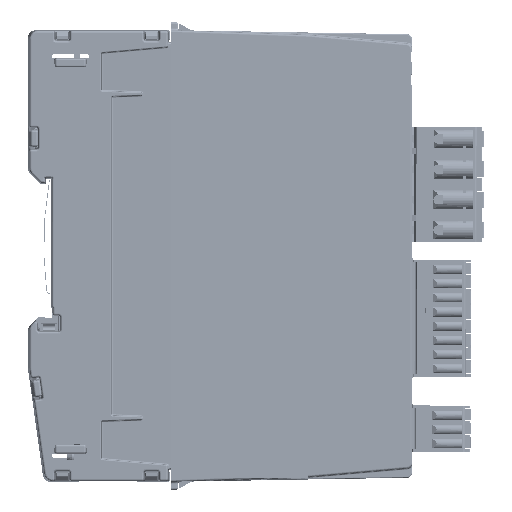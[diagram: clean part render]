
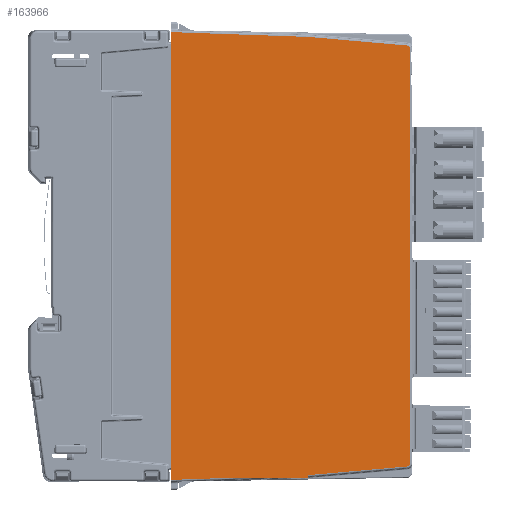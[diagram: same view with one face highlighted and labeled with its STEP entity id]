
A CAD part, left-side view. The second image highlights one B-rep face of the part: STEP entity #163966.
In plain terms, the highlighted planar face has unit normal (-1, -0.018, 0).
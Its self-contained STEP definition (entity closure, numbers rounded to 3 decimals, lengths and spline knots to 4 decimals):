
#15742=FACE_OUTER_BOUND('',#24830,.T.);
#24830=EDGE_LOOP('',(#138290,#138291,#138292,#138293,#138294,#138295,#138296,
#138297,#138298,#138299,#138300,#138301,#138302));
#40829=LINE('',#279380,#57336);
#40842=LINE('',#279452,#57349);
#40899=LINE('',#279680,#57406);
#41229=LINE('',#281508,#57736);
#41230=LINE('',#281510,#57737);
#41231=LINE('',#281514,#57738);
#41232=LINE('',#281518,#57739);
#41233=LINE('',#281520,#57740);
#41234=LINE('',#281522,#57741);
#41235=LINE('',#281524,#57742);
#41236=LINE('',#281525,#57743);
#57336=VECTOR('',#215717,0.3937);
#57349=VECTOR('',#215758,0.3937);
#57406=VECTOR('',#215953,39.3701);
#57736=VECTOR('',#216677,39.3701);
#57737=VECTOR('',#216678,39.3701);
#57738=VECTOR('',#216681,39.3701);
#57739=VECTOR('',#216684,39.3701);
#57740=VECTOR('',#216685,39.3701);
#57741=VECTOR('',#216686,39.3701);
#57742=VECTOR('',#216687,39.3701);
#57743=VECTOR('',#216688,39.3701);
#60091=ELLIPSE('',#176515,0.0315,0.0315);
#60092=ELLIPSE('',#176516,0.0315,0.0315);
#73237=VERTEX_POINT('',#279376);
#73239=VERTEX_POINT('',#279379);
#73261=VERTEX_POINT('',#279447);
#73319=VERTEX_POINT('',#279679);
#73688=VERTEX_POINT('',#281507);
#73689=VERTEX_POINT('',#281509);
#73690=VERTEX_POINT('',#281511);
#73691=VERTEX_POINT('',#281513);
#73692=VERTEX_POINT('',#281515);
#73693=VERTEX_POINT('',#281517);
#73694=VERTEX_POINT('',#281519);
#73695=VERTEX_POINT('',#281521);
#73696=VERTEX_POINT('',#281523);
#94773=EDGE_CURVE('',#73237,#73239,#40829,.T.);
#94800=EDGE_CURVE('',#73239,#73261,#40842,.T.);
#94893=EDGE_CURVE('',#73319,#73261,#40899,.T.);
#95423=EDGE_CURVE('',#73237,#73688,#41229,.T.);
#95424=EDGE_CURVE('',#73688,#73689,#41230,.T.);
#95425=EDGE_CURVE('',#73689,#73690,#60091,.T.);
#95426=EDGE_CURVE('',#73690,#73691,#41231,.T.);
#95427=EDGE_CURVE('',#73691,#73692,#60092,.T.);
#95428=EDGE_CURVE('',#73692,#73693,#41232,.T.);
#95429=EDGE_CURVE('',#73693,#73694,#41233,.T.);
#95430=EDGE_CURVE('',#73694,#73695,#41234,.T.);
#95431=EDGE_CURVE('',#73696,#73695,#41235,.T.);
#95432=EDGE_CURVE('',#73696,#73319,#41236,.T.);
#138290=ORIENTED_EDGE('',*,*,#95423,.T.);
#138291=ORIENTED_EDGE('',*,*,#95424,.T.);
#138292=ORIENTED_EDGE('',*,*,#95425,.T.);
#138293=ORIENTED_EDGE('',*,*,#95426,.T.);
#138294=ORIENTED_EDGE('',*,*,#95427,.T.);
#138295=ORIENTED_EDGE('',*,*,#95428,.T.);
#138296=ORIENTED_EDGE('',*,*,#95429,.T.);
#138297=ORIENTED_EDGE('',*,*,#95430,.T.);
#138298=ORIENTED_EDGE('',*,*,#95431,.F.);
#138299=ORIENTED_EDGE('',*,*,#95432,.T.);
#138300=ORIENTED_EDGE('',*,*,#94893,.T.);
#138301=ORIENTED_EDGE('',*,*,#94800,.F.);
#138302=ORIENTED_EDGE('',*,*,#94773,.F.);
#147509=PLANE('',#176514);
#163966=ADVANCED_FACE('',(#15742),#147509,.T.);
#176514=AXIS2_PLACEMENT_3D('',#281506,#216675,#216676);
#176515=AXIS2_PLACEMENT_3D('',#281512,#216679,#216680);
#176516=AXIS2_PLACEMENT_3D('',#281516,#216682,#216683);
#215717=DIRECTION('',(0.,0.,-1.));
#215758=DIRECTION('',(-0.017,1.,0.));
#215953=DIRECTION('',(0.017,-0.999,0.035));
#216675=DIRECTION('center_axis',(-1.,-0.017,
0.));
#216676=DIRECTION('ref_axis',(-0.017,1.,0.));
#216677=DIRECTION('',(0.017,-0.999,0.035));
#216678=DIRECTION('',(0.017,-0.996,0.087));
#216679=DIRECTION('center_axis',(-1.,-0.017,
0.));
#216680=DIRECTION('ref_axis',(0.017,-1.,0.));
#216681=DIRECTION('',(0.,0.,1.));
#216682=DIRECTION('center_axis',(-1.,-0.017,
0.));
#216683=DIRECTION('ref_axis',(0.017,-1.,0.));
#216684=DIRECTION('',(-0.017,0.996,0.087));
#216685=DIRECTION('',(-0.017,0.999,0.035));
#216686=DIRECTION('',(0.,0.,-1.));
#216687=DIRECTION('',(0.,0.,1.));
#216688=DIRECTION('',(0.,0.,-1.));
#279376=CARTESIAN_POINT('',(0.0005,-2.2096,-4.1958));
#279379=CARTESIAN_POINT('',(0.0005,-2.2096,-4.2206));
#279380=CARTESIAN_POINT('',(0.0005,-2.2096,-3.155));
#279447=CARTESIAN_POINT('',(-0.0119,-1.4997,-4.2206));
#279452=CARTESIAN_POINT('',(-0.0131,-1.4351,-4.2206));
#279679=CARTESIAN_POINT('',(-0.0227,-0.8827,-4.2421));
#279680=CARTESIAN_POINT('',(-0.0282,-0.5654,-4.2532));
#281506=CARTESIAN_POINT('Origin',(-0.0296,-0.489,
-2.0669));
#281507=CARTESIAN_POINT('',(0.0007,-2.2205,-4.1954));
#281508=CARTESIAN_POINT('',(-0.0282,-0.5654,-4.2532));
#281509=CARTESIAN_POINT('',(0.0174,-3.1772,-4.1117));
#281510=CARTESIAN_POINT('',(-0.0261,-0.6869,-4.3296));
#281511=CARTESIAN_POINT('',(0.0179,-3.2059,-4.0803));
#281512=CARTESIAN_POINT('Origin',(0.0173,-3.1744,
-4.0803));
#281513=CARTESIAN_POINT('',(0.0179,-3.2059,-0.0535));
#281514=CARTESIAN_POINT('',(0.0179,-3.2059,-0.0535));
#281515=CARTESIAN_POINT('',(0.0174,-3.1772,-0.0221));
#281516=CARTESIAN_POINT('Origin',(0.0173,-3.1744,
-0.0535));
#281517=CARTESIAN_POINT('',(0.0007,-2.2205,0.0616));
#281518=CARTESIAN_POINT('',(-0.0261,-0.6869,0.1957));
#281519=CARTESIAN_POINT('',(-0.0227,-0.8827,0.1083));
#281520=CARTESIAN_POINT('',(-0.0282,-0.5654,0.1194));
#281521=CARTESIAN_POINT('',(-0.0227,-0.8827,-0.0312));
#281522=CARTESIAN_POINT('',(-0.0227,-0.8827,0.128));
#281523=CARTESIAN_POINT('',(-0.0227,-0.8827,-4.1027));
#281524=CARTESIAN_POINT('',(-0.0227,-0.8827,-7.5932));
#281525=CARTESIAN_POINT('',(-0.0227,-0.8827,0.128));
